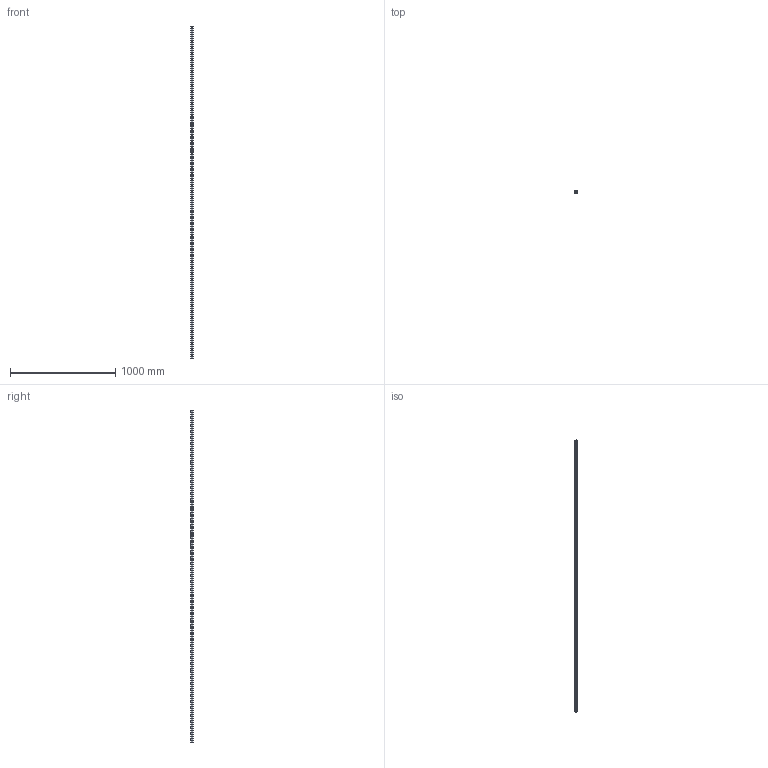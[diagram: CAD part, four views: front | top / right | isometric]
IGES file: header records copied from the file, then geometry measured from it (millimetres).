
Start section: SolidWorks IGES file using analytic representation for surfaces
Global section: file name: C:\Users\IanO\Desktop\L1016_v2\L1016.BL25_v2\L1016.BL25_v2_20160611_IGES\L1016.BL25-3160.igs; native system: SolidWorks 2017; preprocessor: SolidWorks 2017; author: IanO; date: 190612.131418; units: millimetre
Bounding box: 23 x 19.2 x 3160 mm (x, y, z)
Surface area: 298925 mm2 (no closed solid volume)
Topology: 0 solids, 0 shells, 291 faces, 7800 edges, 7800 vertices
Faces by surface type: revolution 216, bspline 75
